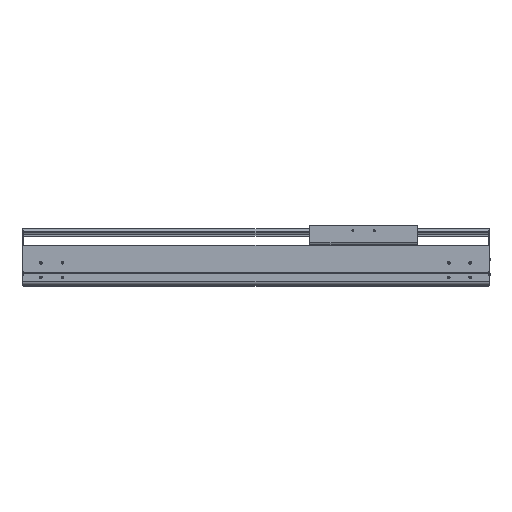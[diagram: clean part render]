
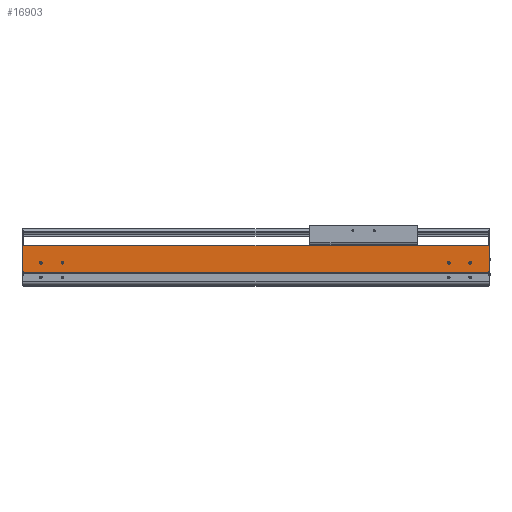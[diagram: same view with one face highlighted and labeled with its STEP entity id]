
A CAD part, top view. The second image highlights one B-rep face of the part: STEP entity #16903.
In plain terms, the highlighted planar face has unit normal (0, 0, 1).
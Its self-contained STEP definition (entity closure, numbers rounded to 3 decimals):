
#2840=DIRECTION('',(1.,0.,0.));
#2841=VECTOR('',#2840,2.);
#2842=CARTESIAN_POINT('',(-1086.,34.65,107.));
#2843=LINE('',#2842,#2841);
#2844=CARTESIAN_POINT('',(-42.,54.,107.));
#2845=DIRECTION('',(0.,0.,-1.));
#2846=DIRECTION('',(1.,0.,0.));
#2847=AXIS2_PLACEMENT_3D('',#2844,#2845,#2846);
#2849=CARTESIAN_POINT('',(-42.,54.,107.));
#2850=DIRECTION('',(0.,0.,-1.));
#2851=DIRECTION('',(-1.,0.,0.));
#2852=AXIS2_PLACEMENT_3D('',#2849,#2850,#2851);
#2854=CARTESIAN_POINT('',(-92.,54.,107.));
#2855=DIRECTION('',(0.,0.,-1.));
#2856=DIRECTION('',(1.,0.,0.));
#2857=AXIS2_PLACEMENT_3D('',#2854,#2855,#2856);
#2859=CARTESIAN_POINT('',(-92.,54.,107.));
#2860=DIRECTION('',(0.,0.,-1.));
#2861=DIRECTION('',(-1.,0.,0.));
#2862=AXIS2_PLACEMENT_3D('',#2859,#2860,#2861);
#2864=CARTESIAN_POINT('',(-1044.,54.,107.));
#2865=DIRECTION('',(0.,0.,-1.));
#2866=DIRECTION('',(1.,0.,0.));
#2867=AXIS2_PLACEMENT_3D('',#2864,#2865,#2866);
#2869=CARTESIAN_POINT('',(-1044.,54.,107.));
#2870=DIRECTION('',(0.,0.,-1.));
#2871=DIRECTION('',(-1.,0.,0.));
#2872=AXIS2_PLACEMENT_3D('',#2869,#2870,#2871);
#2874=CARTESIAN_POINT('',(-994.,54.,107.));
#2875=DIRECTION('',(0.,0.,-1.));
#2876=DIRECTION('',(1.,0.,0.));
#2877=AXIS2_PLACEMENT_3D('',#2874,#2875,#2876);
#2879=CARTESIAN_POINT('',(-994.,54.,107.));
#2880=DIRECTION('',(0.,0.,-1.));
#2881=DIRECTION('',(-1.,0.,0.));
#2882=AXIS2_PLACEMENT_3D('',#2879,#2880,#2881);
#2884=DIRECTION('',(0.,-1.,0.));
#2885=VECTOR('',#2884,2.55);
#2886=CARTESIAN_POINT('',(-1084.,34.65,107.));
#2887=LINE('',#2886,#2885);
#2888=DIRECTION('',(0.,-1.,0.));
#2889=VECTOR('',#2888,58.85);
#2890=CARTESIAN_POINT('',(-1086.,93.5,107.));
#2891=LINE('',#2890,#2889);
#2892=DIRECTION('',(0.,1.,0.));
#2893=VECTOR('',#2892,58.85);
#2894=CARTESIAN_POINT('',(2.,34.65,107.));
#2895=LINE('',#2894,#2893);
#2896=DIRECTION('',(0.,1.,0.));
#2897=VECTOR('',#2896,2.55);
#2898=CARTESIAN_POINT('',(0.,32.1,107.));
#2899=LINE('',#2898,#2897);
#3004=DIRECTION('',(-1.,0.,0.));
#3005=VECTOR('',#3004,1088.);
#3006=CARTESIAN_POINT('',(2.,93.5,107.));
#3007=LINE('',#3006,#3005);
#9701=DIRECTION('',(1.,0.,0.));
#9702=VECTOR('',#9701,2.);
#9703=CARTESIAN_POINT('',(0.,34.65,107.));
#9704=LINE('',#9703,#9702);
#9721=DIRECTION('',(1.,0.,0.));
#9722=VECTOR('',#9721,1084.);
#9723=CARTESIAN_POINT('',(-1084.,32.1,107.));
#9724=LINE('',#9723,#9722);
#10867=CARTESIAN_POINT('',(-1086.,34.65,107.));
#10868=VERTEX_POINT('',#10867);
#10869=CARTESIAN_POINT('',(-1086.,93.5,107.));
#10870=VERTEX_POINT('',#10869);
#11091=CARTESIAN_POINT('',(-1084.,32.1,107.));
#11092=VERTEX_POINT('',#11091);
#11163=CARTESIAN_POINT('',(0.,32.1,107.));
#11164=VERTEX_POINT('',#11163);
#11505=CARTESIAN_POINT('',(-39.5,54.,107.));
#11506=CARTESIAN_POINT('',(-44.5,54.,107.));
#11507=VERTEX_POINT('',#11505);
#11508=VERTEX_POINT('',#11506);
#11509=CARTESIAN_POINT('',(-89.5,54.,107.));
#11510=CARTESIAN_POINT('',(-94.5,54.,107.));
#11511=VERTEX_POINT('',#11509);
#11512=VERTEX_POINT('',#11510);
#11513=CARTESIAN_POINT('',(-1041.5,54.,107.));
#11514=CARTESIAN_POINT('',(-1046.5,54.,107.));
#11515=VERTEX_POINT('',#11513);
#11516=VERTEX_POINT('',#11514);
#11517=CARTESIAN_POINT('',(-991.5,54.,107.));
#11518=CARTESIAN_POINT('',(-996.5,54.,107.));
#11519=VERTEX_POINT('',#11517);
#11520=VERTEX_POINT('',#11518);
#12524=CARTESIAN_POINT('',(2.,34.65,107.));
#12525=VERTEX_POINT('',#12524);
#12526=CARTESIAN_POINT('',(2.,93.5,107.));
#12527=VERTEX_POINT('',#12526);
#12748=CARTESIAN_POINT('',(0.,34.65,107.));
#12749=VERTEX_POINT('',#12748);
#13060=CARTESIAN_POINT('',(-1084.,34.65,107.));
#13061=VERTEX_POINT('',#13060);
#16861=CARTESIAN_POINT('',(-542.,62.8,107.));
#16862=DIRECTION('',(0.,0.,1.));
#16863=DIRECTION('',(0.,-1.,0.));
#16864=AXIS2_PLACEMENT_3D('',#16861,#16862,#16863);
#16865=PLANE('',#16864);
#16866=ORIENTED_EDGE('',*,*,#14142,.F.);
#16867=ORIENTED_EDGE('',*,*,#16856,.F.);
#16868=ORIENTED_EDGE('',*,*,#14763,.F.);
#16870=ORIENTED_EDGE('',*,*,#16869,.F.);
#16871=ORIENTED_EDGE('',*,*,#13879,.F.);
#16873=ORIENTED_EDGE('',*,*,#16872,.F.);
#16874=ORIENTED_EDGE('',*,*,#16472,.F.);
#16876=ORIENTED_EDGE('',*,*,#16875,.F.);
#16877=EDGE_LOOP('',(#16866,#16867,#16868,#16870,#16871,#16873,#16874,#16876));
#16878=FACE_OUTER_BOUND('',#16877,.F.);
#16880=ORIENTED_EDGE('',*,*,#16879,.F.);
#16882=ORIENTED_EDGE('',*,*,#16881,.F.);
#16883=EDGE_LOOP('',(#16880,#16882));
#16884=FACE_BOUND('',#16883,.F.);
#16886=ORIENTED_EDGE('',*,*,#16885,.F.);
#16888=ORIENTED_EDGE('',*,*,#16887,.F.);
#16889=EDGE_LOOP('',(#16886,#16888));
#16890=FACE_BOUND('',#16889,.F.);
#16892=ORIENTED_EDGE('',*,*,#16891,.F.);
#16894=ORIENTED_EDGE('',*,*,#16893,.F.);
#16895=EDGE_LOOP('',(#16892,#16894));
#16896=FACE_BOUND('',#16895,.F.);
#16898=ORIENTED_EDGE('',*,*,#16897,.F.);
#16900=ORIENTED_EDGE('',*,*,#16899,.F.);
#16901=EDGE_LOOP('',(#16898,#16900));
#16902=FACE_BOUND('',#16901,.F.);
#16903=ADVANCED_FACE('',(#16878,#16884,#16890,#16896,#16902),#16865,.T.);
#2848=CIRCLE('',#2847,2.5);
#2853=CIRCLE('',#2852,2.5);
#2858=CIRCLE('',#2857,2.5);
#2863=CIRCLE('',#2862,2.5);
#2868=CIRCLE('',#2867,2.5);
#2873=CIRCLE('',#2872,2.5);
#2878=CIRCLE('',#2877,2.5);
#2883=CIRCLE('',#2882,2.5);
#13879=EDGE_CURVE('',#12525,#12527,#2895,.T.);
#14142=EDGE_CURVE('',#13061,#11092,#2887,.T.);
#14763=EDGE_CURVE('',#10870,#10868,#2891,.T.);
#16472=EDGE_CURVE('',#11164,#12749,#2899,.T.);
#16856=EDGE_CURVE('',#10868,#13061,#2843,.T.);
#16869=EDGE_CURVE('',#12527,#10870,#3007,.T.);
#16872=EDGE_CURVE('',#12749,#12525,#9704,.T.);
#16875=EDGE_CURVE('',#11092,#11164,#9724,.T.);
#16879=EDGE_CURVE('',#11511,#11512,#2858,.T.);
#16881=EDGE_CURVE('',#11512,#11511,#2863,.T.);
#16885=EDGE_CURVE('',#11515,#11516,#2868,.T.);
#16887=EDGE_CURVE('',#11516,#11515,#2873,.T.);
#16891=EDGE_CURVE('',#11519,#11520,#2878,.T.);
#16893=EDGE_CURVE('',#11520,#11519,#2883,.T.);
#16897=EDGE_CURVE('',#11507,#11508,#2848,.T.);
#16899=EDGE_CURVE('',#11508,#11507,#2853,.T.);
